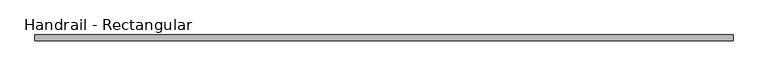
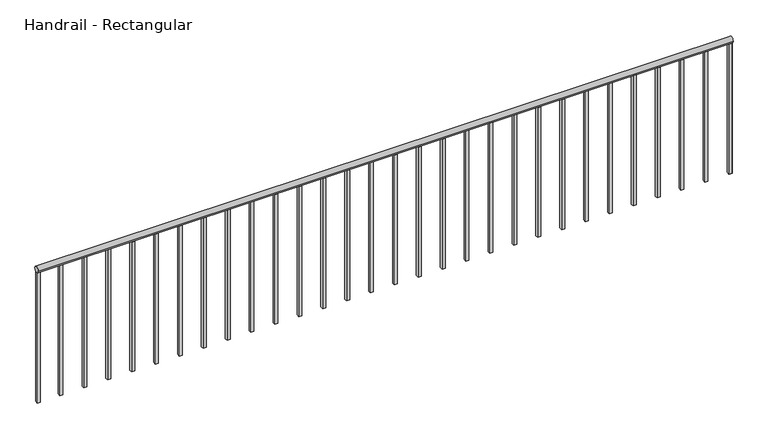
"""IFC4 building model written with IfcOpenShell, lengths in millimetres: railing geometry, Handrail - Rectangular."""

from ifc_helpers import new_model, si_unit, point, frame, frame_2d, origin, place, context, project, spatial, polyline, circle_curve, trimmed, segment, composite_curve, outline, extrude, source, transform, mapped, element, save


def handrail_rectangular_ca5e6d7e(model_context):
    return source(origin(), model_context, "Body", "SweptSolid", [
        extrude(outline(composite_curve([segment(trimmed(circle_curve(frame_2d((-35553.1683133, 10039.35)), 19.05), [point((-35572.2183133, 10039.35))], [point((-35534.1183133, 10039.35))], False, "CARTESIAN"), True, "CONTINUOUS"), segment(trimmed(circle_curve(frame_2d((-35553.1683133, 10039.35)), 19.05), [point((-35534.1183133, 10039.35))], [point((-35572.2183133, 10039.35))], False, "CARTESIAN"), True, "CONTINUOUS")], self_intersect=False)), frame((-3862.3589563, 0.0, 0.0), z_axis=(1.0, 0.0, 0.0), x_axis=(0.0, 1.0, 0.0)), (0.0, 0.0, 1.0), 4432.3),
        extrude(outline(polyline([(547.7160437, -35543.6433133), (566.7660437, -35543.6433133), (566.7660437, -35562.6933133), (547.7160437, -35562.6933133), (547.7160437, -35543.6433133)])), frame((0.0, 0.0, 9144.0), z_axis=(0.0, 0.0, 1.0), x_axis=(1.0, 0.0, 0.0)), (0.0, 0.0, 1.0), 876.3),
        extrude(outline(polyline([(395.3160437, -35543.6433133), (414.3660437, -35543.6433133), (414.3660437, -35562.6933133), (395.3160437, -35562.6933133), (395.3160437, -35543.6433133)])), frame((0.0, 0.0, 9144.0), z_axis=(0.0, 0.0, 1.0), x_axis=(1.0, 0.0, 0.0)), (0.0, 0.0, 1.0), 876.3),
        extrude(outline(polyline([(242.9160437, -35543.6433133), (261.9660437, -35543.6433133), (261.9660437, -35562.6933133), (242.9160437, -35562.6933133), (242.9160437, -35543.6433133)])), frame((0.0, 0.0, 9144.0), z_axis=(0.0, 0.0, 1.0), x_axis=(1.0, 0.0, 0.0)), (0.0, 0.0, 1.0), 876.3),
        extrude(outline(polyline([(90.5160437, -35543.6433133), (109.5660437, -35543.6433133), (109.5660437, -35562.6933133), (90.5160437, -35562.6933133), (90.5160437, -35543.6433133)])), frame((0.0, 0.0, 9144.0), z_axis=(0.0, 0.0, 1.0), x_axis=(1.0, 0.0, 0.0)), (0.0, 0.0, 1.0), 876.3),
        extrude(outline(polyline([(-61.8839563, -35543.6433133), (-42.8339563, -35543.6433133), (-42.8339563, -35562.6933133), (-61.8839563, -35562.6933133), (-61.8839563, -35543.6433133)])), frame((0.0, 0.0, 9144.0), z_axis=(0.0, 0.0, 1.0), x_axis=(1.0, 0.0, 0.0)), (0.0, 0.0, 1.0), 876.3),
        extrude(outline(polyline([(-214.2839563, -35543.6433133), (-195.2339563, -35543.6433133), (-195.2339563, -35562.6933133), (-214.2839563, -35562.6933133), (-214.2839563, -35543.6433133)])), frame((0.0, 0.0, 9144.0), z_axis=(0.0, 0.0, 1.0), x_axis=(1.0, 0.0, 0.0)), (0.0, 0.0, 1.0), 876.3),
        extrude(outline(polyline([(-366.6839563, -35543.6433133), (-347.6339563, -35543.6433133), (-347.6339563, -35562.6933133), (-366.6839563, -35562.6933133), (-366.6839563, -35543.6433133)])), frame((0.0, 0.0, 9144.0), z_axis=(0.0, 0.0, 1.0), x_axis=(1.0, 0.0, 0.0)), (0.0, 0.0, 1.0), 876.3),
        extrude(outline(polyline([(-519.0839563, -35543.6433133), (-500.0339563, -35543.6433133), (-500.0339563, -35562.6933133), (-519.0839563, -35562.6933133), (-519.0839563, -35543.6433133)])), frame((0.0, 0.0, 9144.0), z_axis=(0.0, 0.0, 1.0), x_axis=(1.0, 0.0, 0.0)), (0.0, 0.0, 1.0), 876.3),
        extrude(outline(polyline([(-671.4839563, -35543.6433133), (-652.4339563, -35543.6433133), (-652.4339563, -35562.6933133), (-671.4839563, -35562.6933133), (-671.4839563, -35543.6433133)])), frame((0.0, 0.0, 9144.0), z_axis=(0.0, 0.0, 1.0), x_axis=(1.0, 0.0, 0.0)), (0.0, 0.0, 1.0), 876.3),
        extrude(outline(polyline([(-823.8839563, -35543.6433133), (-804.8339563, -35543.6433133), (-804.8339563, -35562.6933133), (-823.8839563, -35562.6933133), (-823.8839563, -35543.6433133)])), frame((0.0, 0.0, 9144.0), z_axis=(0.0, 0.0, 1.0), x_axis=(1.0, 0.0, 0.0)), (0.0, 0.0, 1.0), 876.3),
        extrude(outline(polyline([(-976.2839563, -35543.6433133), (-957.2339563, -35543.6433133), (-957.2339563, -35562.6933133), (-976.2839563, -35562.6933133), (-976.2839563, -35543.6433133)])), frame((0.0, 0.0, 9144.0), z_axis=(0.0, 0.0, 1.0), x_axis=(1.0, 0.0, 0.0)), (0.0, 0.0, 1.0), 876.3),
        extrude(outline(polyline([(-1128.6839563, -35543.6433133), (-1109.6339563, -35543.6433133), (-1109.6339563, -35562.6933133), (-1128.6839563, -35562.6933133), (-1128.6839563, -35543.6433133)])), frame((0.0, 0.0, 9144.0), z_axis=(0.0, 0.0, 1.0), x_axis=(1.0, 0.0, 0.0)), (0.0, 0.0, 1.0), 876.3),
        extrude(outline(polyline([(-1281.0839563, -35543.6433133), (-1262.0339563, -35543.6433133), (-1262.0339563, -35562.6933133), (-1281.0839563, -35562.6933133), (-1281.0839563, -35543.6433133)])), frame((0.0, 0.0, 9144.0), z_axis=(0.0, 0.0, 1.0), x_axis=(1.0, 0.0, 0.0)), (0.0, 0.0, 1.0), 876.3),
        extrude(outline(polyline([(-1433.4839563, -35543.6433133), (-1414.4339563, -35543.6433133), (-1414.4339563, -35562.6933133), (-1433.4839563, -35562.6933133), (-1433.4839563, -35543.6433133)])), frame((0.0, 0.0, 9144.0), z_axis=(0.0, 0.0, 1.0), x_axis=(1.0, 0.0, 0.0)), (0.0, 0.0, 1.0), 876.3),
        extrude(outline(polyline([(-1585.8839563, -35543.6433133), (-1566.8339563, -35543.6433133), (-1566.8339563, -35562.6933133), (-1585.8839563, -35562.6933133), (-1585.8839563, -35543.6433133)])), frame((0.0, 0.0, 9144.0), z_axis=(0.0, 0.0, 1.0), x_axis=(1.0, 0.0, 0.0)), (0.0, 0.0, 1.0), 876.3),
        extrude(outline(polyline([(-1738.2839563, -35543.6433133), (-1719.2339563, -35543.6433133), (-1719.2339563, -35562.6933133), (-1738.2839563, -35562.6933133), (-1738.2839563, -35543.6433133)])), frame((0.0, 0.0, 9144.0), z_axis=(0.0, 0.0, 1.0), x_axis=(1.0, 0.0, 0.0)), (0.0, 0.0, 1.0), 876.3),
        extrude(outline(polyline([(-1890.6839563, -35543.6433133), (-1871.6339563, -35543.6433133), (-1871.6339563, -35562.6933133), (-1890.6839563, -35562.6933133), (-1890.6839563, -35543.6433133)])), frame((0.0, 0.0, 9144.0), z_axis=(0.0, 0.0, 1.0), x_axis=(1.0, 0.0, 0.0)), (0.0, 0.0, 1.0), 876.3),
        extrude(outline(polyline([(-2043.0839563, -35543.6433133), (-2024.0339563, -35543.6433133), (-2024.0339563, -35562.6933133), (-2043.0839563, -35562.6933133), (-2043.0839563, -35543.6433133)])), frame((0.0, 0.0, 9144.0), z_axis=(0.0, 0.0, 1.0), x_axis=(1.0, 0.0, 0.0)), (0.0, 0.0, 1.0), 876.3),
        extrude(outline(polyline([(-2195.4839563, -35543.6433133), (-2176.4339563, -35543.6433133), (-2176.4339563, -35562.6933133), (-2195.4839563, -35562.6933133), (-2195.4839563, -35543.6433133)])), frame((0.0, 0.0, 9144.0), z_axis=(0.0, 0.0, 1.0), x_axis=(1.0, 0.0, 0.0)), (0.0, 0.0, 1.0), 876.3),
        extrude(outline(polyline([(-2347.8839563, -35543.6433133), (-2328.8339563, -35543.6433133), (-2328.8339563, -35562.6933133), (-2347.8839563, -35562.6933133), (-2347.8839563, -35543.6433133)])), frame((0.0, 0.0, 9144.0), z_axis=(0.0, 0.0, 1.0), x_axis=(1.0, 0.0, 0.0)), (0.0, 0.0, 1.0), 876.3),
        extrude(outline(polyline([(-2500.2839563, -35543.6433133), (-2481.2339563, -35543.6433133), (-2481.2339563, -35562.6933133), (-2500.2839563, -35562.6933133), (-2500.2839563, -35543.6433133)])), frame((0.0, 0.0, 9144.0), z_axis=(0.0, 0.0, 1.0), x_axis=(1.0, 0.0, 0.0)), (0.0, 0.0, 1.0), 876.3),
        extrude(outline(polyline([(-2652.6839563, -35543.6433133), (-2633.6339563, -35543.6433133), (-2633.6339563, -35562.6933133), (-2652.6839563, -35562.6933133), (-2652.6839563, -35543.6433133)])), frame((0.0, 0.0, 9144.0), z_axis=(0.0, 0.0, 1.0), x_axis=(1.0, 0.0, 0.0)), (0.0, 0.0, 1.0), 876.3),
        extrude(outline(polyline([(-2805.0839563, -35543.6433133), (-2786.0339563, -35543.6433133), (-2786.0339563, -35562.6933133), (-2805.0839563, -35562.6933133), (-2805.0839563, -35543.6433133)])), frame((0.0, 0.0, 9144.0), z_axis=(0.0, 0.0, 1.0), x_axis=(1.0, 0.0, 0.0)), (0.0, 0.0, 1.0), 876.3),
        extrude(outline(polyline([(-2957.4839563, -35543.6433133), (-2938.4339563, -35543.6433133), (-2938.4339563, -35562.6933133), (-2957.4839563, -35562.6933133), (-2957.4839563, -35543.6433133)])), frame((0.0, 0.0, 9144.0), z_axis=(0.0, 0.0, 1.0), x_axis=(1.0, 0.0, 0.0)), (0.0, 0.0, 1.0), 876.3),
        extrude(outline(polyline([(-3109.8839563, -35543.6433133), (-3090.8339563, -35543.6433133), (-3090.8339563, -35562.6933133), (-3109.8839563, -35562.6933133), (-3109.8839563, -35543.6433133)])), frame((0.0, 0.0, 9144.0), z_axis=(0.0, 0.0, 1.0), x_axis=(1.0, 0.0, 0.0)), (0.0, 0.0, 1.0), 876.3),
        extrude(outline(polyline([(-3262.2839563, -35543.6433133), (-3243.2339563, -35543.6433133), (-3243.2339563, -35562.6933133), (-3262.2839563, -35562.6933133), (-3262.2839563, -35543.6433133)])), frame((0.0, 0.0, 9144.0), z_axis=(0.0, 0.0, 1.0), x_axis=(1.0, 0.0, 0.0)), (0.0, 0.0, 1.0), 876.3),
        extrude(outline(polyline([(-3414.6839563, -35543.6433133), (-3395.6339563, -35543.6433133), (-3395.6339563, -35562.6933133), (-3414.6839563, -35562.6933133), (-3414.6839563, -35543.6433133)])), frame((0.0, 0.0, 9144.0), z_axis=(0.0, 0.0, 1.0), x_axis=(1.0, 0.0, 0.0)), (0.0, 0.0, 1.0), 876.3),
        extrude(outline(polyline([(-3567.0839563, -35543.6433133), (-3548.0339563, -35543.6433133), (-3548.0339563, -35562.6933133), (-3567.0839563, -35562.6933133), (-3567.0839563, -35543.6433133)])), frame((0.0, 0.0, 9144.0), z_axis=(0.0, 0.0, 1.0), x_axis=(1.0, 0.0, 0.0)), (0.0, 0.0, 1.0), 876.3),
        extrude(outline(polyline([(-3719.4839563, -35543.6433133), (-3700.4339563, -35543.6433133), (-3700.4339563, -35562.6933133), (-3719.4839563, -35562.6933133), (-3719.4839563, -35543.6433133)])), frame((0.0, 0.0, 9144.0), z_axis=(0.0, 0.0, 1.0), x_axis=(1.0, 0.0, 0.0)), (0.0, 0.0, 1.0), 876.3),
        extrude(outline(polyline([(550.8910437, -35543.6433133), (569.9410437, -35543.6433133), (569.9410437, -35562.6933133), (550.8910437, -35562.6933133), (550.8910437, -35543.6433133)])), frame((0.0, 0.0, 9144.0), z_axis=(0.0, 0.0, 1.0), x_axis=(1.0, 0.0, 0.0)), (0.0, 0.0, 1.0), 876.3),
        extrude(outline(polyline([(-3862.3589563, -35543.6433133), (-3843.3089563, -35543.6433133), (-3843.3089563, -35562.6933133), (-3862.3589563, -35562.6933133), (-3862.3589563, -35543.6433133)])), frame((0.0, 0.0, 9144.0), z_axis=(0.0, 0.0, 1.0), x_axis=(1.0, 0.0, 0.0)), (0.0, 0.0, 1.0), 876.3),
    ])


if __name__ == "__main__":
    model = new_model("IFC4")
    model_context = context("Model", 3, world=origin())
    ifc_project = project(units=[si_unit("LENGTHUNIT", "METRE", prefix="MILLI")], contexts=[model_context])
    site = spatial("IfcSite", under=ifc_project)
    building = spatial("IfcBuilding", under=site)
    placement = place(None, origin())
    handrail_rectangular_shape = handrail_rectangular_ca5e6d7e(model_context)
    element("IfcRailing", 1, ObjectType="Handrail - Rectangular", at=placement, inside=building, context=model_context, shape_type="MappedRepresentation", body=[
        mapped(handrail_rectangular_shape, transform((0.0, 0.0, 0.0), x_axis=(1.0, 0.0, 0.0), y_axis=(0.0, 1.0, 0.0), z_axis=(0.0, 0.0, 1.0))),
    ])
    save(model, "model.ifc")
